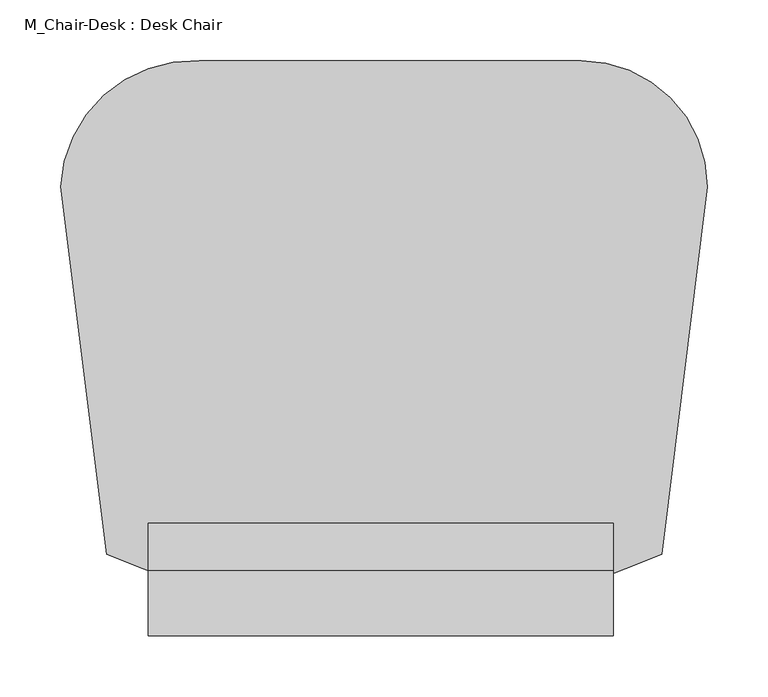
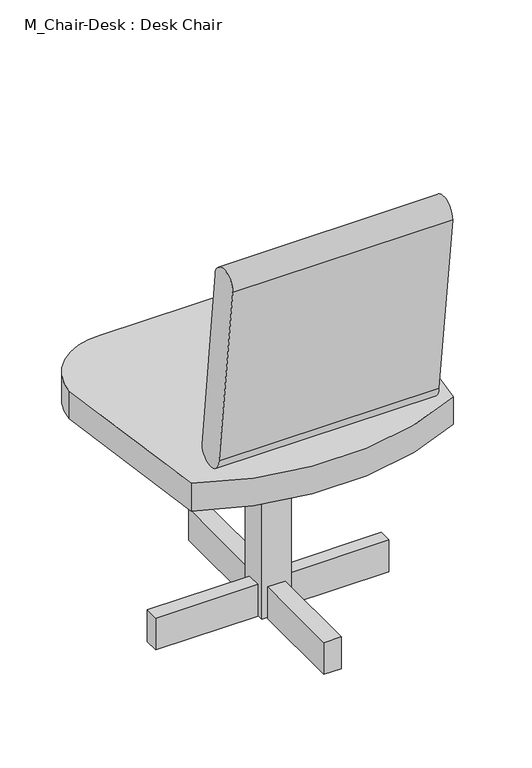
"""IFC4 building model written with IfcOpenShell, lengths in millimetres: furniture geometry, M_Chair-Desk : Desk Chair."""

from ifc_helpers import new_model, si_unit, point, frame, frame_2d, origin, origin_with_axes, place, context, project, spatial, polyline, circle_curve, trimmed, segment, composite_curve, outline, extrude, source, transform, mapped, element, save


def m_chair_desk_desk_chair_ccc35c8f(model_context):
    return source(origin(), model_context, "Body", "SweptSolid", [
        extrude(outline(polyline([(-203.6618182, 175.0290909), (-25.8618182, 175.0290909), (-25.8618182, 150.0462968), (-203.6618182, 150.0462968), (-203.6618182, 175.0290909)])), origin_with_axes(), (0.0, 0.0, 1.0), 58.5040426),
        extrude(outline(polyline([(204.1236364, 175.0290909), (204.1236364, 152.4), (26.7854545, 152.4), (26.7854545, 175.0290909), (204.1236364, 175.0290909)])), origin_with_axes(), (0.0, 0.0, 1.0), 58.5040426),
        extrude(outline(polyline([(-16.1636364, 188.8836364), (-16.1636364, 374.9517514), (14.3163636, 374.9517514), (14.3163636, 188.8836364), (-16.1636364, 188.8836364)])), origin_with_axes(), (0.0, 0.0, 1.0), 58.5040426),
        extrude(outline(polyline([(14.3163636, 136.2363636), (14.3163636, -33.2509091), (-16.1636364, -33.2509091), (-16.1636364, 136.2363636), (14.3163636, 136.2363636)])), origin_with_axes(), (0.0, 0.0, 1.0), 58.5040426),
        extrude(outline(polyline([(26.3236364, 190.2690909), (26.3236364, 139.4690909), (-24.4763636, 139.4690909), (-24.4763636, 190.2690909), (26.3236364, 190.2690909)])), origin_with_axes(), (0.0, 0.0, 1.0), 355.6),
        extrude(outline(composite_curve([segment(polyline([(-13.6321252, 787.4), (25.5523927, 451.3880753)]), True, "CONTINUOUS"), segment(trimmed(circle_curve(frame_2d((0.0761963, 451.3880753)), 25.4761963), [point((25.5523927, 451.3880753))], [point((-25.4, 451.3880753))], False, "CARTESIAN"), True, "CONTINUOUS"), segment(polyline([(-25.4, 451.3880753), (-67.209111, 787.4)]), True, "CONTINUOUS"), segment(trimmed(circle_curve(frame_2d((-40.4206181, 787.4)), 26.7884929), [point((-67.209111, 787.4))], [point((-13.6321252, 787.4))], False, "CARTESIAN"), True, "CONTINUOUS")], self_intersect=False)), frame((-194.3643056, 0.0, 0.0), z_axis=(1.0, 0.0, 0.0), x_axis=(0.0, 1.0, 0.0)), (0.0, 0.0, 1.0), 383.2768056),
        extrude(outline(composite_curve([segment(trimmed(circle_curve(frame_2d((-157.1362322, 297.1024212)), 109.4001491), [point((-266.4057871, 302.4462968))], [point((-152.4, 406.4))], False, "CARTESIAN"), True, "CONTINUOUS"), segment(polyline([(-152.4, 406.4), (162.2530084, 406.4)]), True, "CONTINUOUS"), segment(trimmed(circle_curve(frame_2d((162.2530084, 302.4462968)), 103.9537032), [point((162.2530084, 406.4))], [point((266.2067116, 302.4462968))], False, "CARTESIAN"), True, "CONTINUOUS"), segment(polyline([(266.2067116, 302.4462968), (228.6, 0.0)]), True, "CONTINUOUS"), segment(trimmed(circle_curve(frame_2d((0.0, 446.8941036)), 501.9684252), [point((228.6, 0.0))], [point((-228.6, 0.0))], False, "CARTESIAN"), True, "CONTINUOUS"), segment(polyline([(-228.6, 0.0), (-266.4057871, 302.4462968)]), True, "CONTINUOUS")], self_intersect=False)), frame((0.0, 0.0, 355.6), z_axis=(0.0, 0.0, 1.0), x_axis=(1.0, 0.0, 0.0)), (0.0, 0.0, 1.0), 50.8),
    ])


if __name__ == "__main__":
    model = new_model("IFC4")
    model_context = context("Model", 3, world=origin())
    ifc_project = project(units=[si_unit("LENGTHUNIT", "METRE", prefix="MILLI")], contexts=[model_context])
    site = spatial("IfcSite", under=ifc_project)
    building = spatial("IfcBuilding", under=site)
    placement = place(None, origin())
    m_chair_desk_desk_chair_shape = m_chair_desk_desk_chair_ccc35c8f(model_context)
    element("IfcFurniture", 1, ObjectType="M_Chair-Desk : Desk Chair", at=placement, inside=building, context=model_context, shape_type="MappedRepresentation", body=[
        mapped(m_chair_desk_desk_chair_shape, transform((0.0, 0.0, 0.0), x_axis=(1.0, 0.0, 0.0), y_axis=(0.0, 1.0, 0.0), z_axis=(0.0, 0.0, 1.0))),
    ])
    save(model, "model.ifc")
